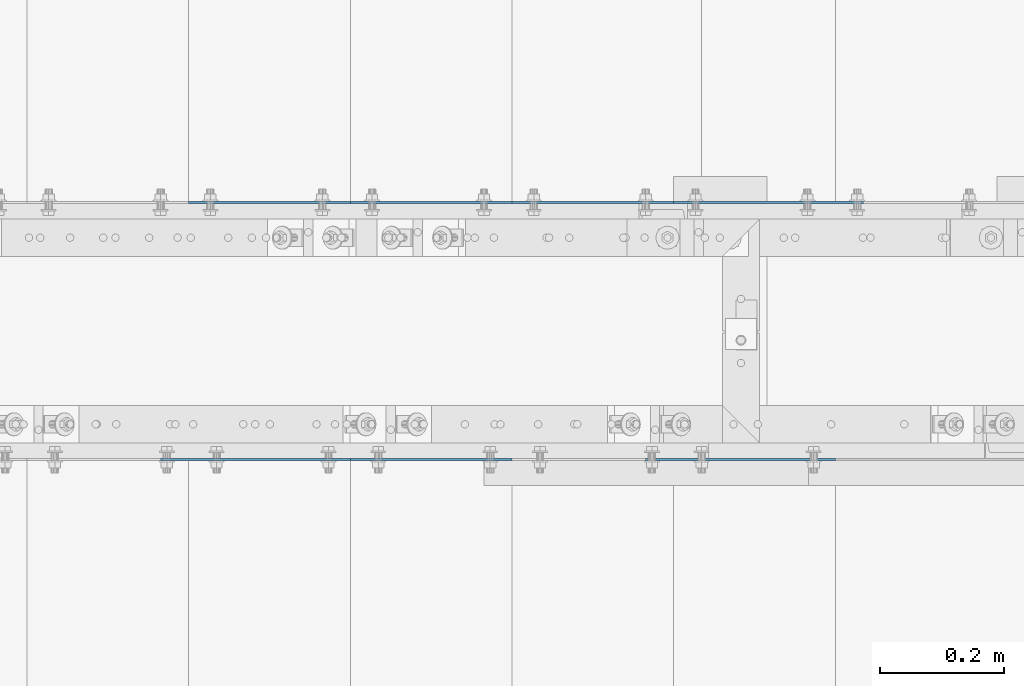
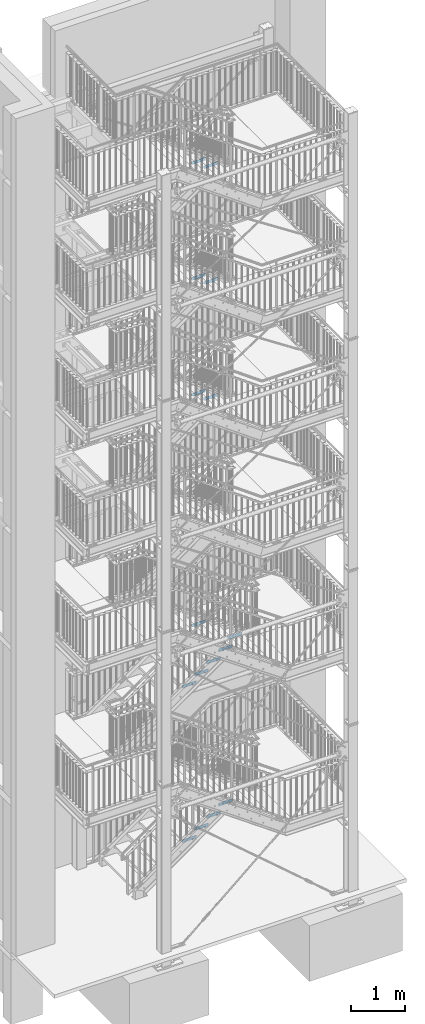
# One storey, part 177 of 831: 16 plates, 32 openings.
"""IFC2X3 building model written with IfcOpenShell, lengths in millimetres."""

from ifc_helpers import new_model, entity, si_unit, converted_unit, point, frame, frame_2d, origin, origin_with_axes, origin_2d_with_axis, place, context, project, spatial, polyline, circle_curve, line_curve, trimmed, segment, composite_curve, circle, outline, extrude, material, layer, layer_set, element, save


model = new_model("IFC2X3")

# Units and contexts
model_context = context("Model", 3, precision=1e-09, world=origin_with_axes())
ifc_project = project(units=[si_unit("LENGTHUNIT", "METRE", prefix="MILLI"), si_unit("AREAUNIT", "SQUARE_METRE"), si_unit("VOLUMEUNIT", "CUBIC_METRE"), converted_unit("PLANEANGLEUNIT", "DEGREE", entity("IfcPlaneAngleMeasure", 0.01745329), si_unit("PLANEANGLEUNIT", "RADIAN"), dimensions=[0, 0, 0, 0, 0, 0, 0])], contexts=[model_context])

# Site, building, storey
site_placement = place(None, origin_with_axes())
site = spatial("IfcSite", under=ifc_project, at=site_placement, Name="Site", CompositionType="ELEMENT")
building_placement = place(site_placement, origin_with_axes())
building = spatial("IfcBuilding", under=site, at=building_placement, Name="Struktur 1", CompositionType="ELEMENT")
storey_placement = place(building_placement, origin_with_axes())
storey = spatial("IfcBuildingStorey", under=building, at=storey_placement, Name="Default Storey", CompositionType="ELEMENT", Elevation=0.0)

# Plate, openings
ifc_material = material(Name="S235JR")
ifc_layer = layer(ifc_material, 3.0)
ifc_layer_set = layer_set([ifc_layer], Name="S235JR")
plate_1_placement = place(None, frame((6276.713402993, 6149.736971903, 1295.5263152), z_axis=(0.0, -1.0, 0.0), x_axis=(0.0, 0.0, -1.0)))
plate_1 = element("IfcPlate", 1, at=plate_1_placement, inside=storey, material=ifc_layer_set, Name="Grate_Step#31", ObjectType="Grate_Step#31", context=model_context, shape_type="SweptSolid", body=[
    extrude(outline(polyline([(0.0, 0.0), (70.0, 0.0), (70.0, 275.0), (40.0, 305.0), (0.0, 305.0), (0.0, 0.0)])), origin_with_axes(), (0.0, 0.0, 1.0), 3.0),
])
opening_1_placement = place(plate_1_placement, frame((55.0, 215.0, -0.5), z_axis=(0.0, 0.0, 1.0), x_axis=(0.0, 1.0, 0.0)))
element("IfcOpeningElement", 2, at=opening_1_placement, cuts=plate_1, ObjectType="Opening", context=model_context, shape_type="SweptSolid", body=[
    extrude(outline(composite_curve([segment(trimmed(line_curve((-9.5, -7.001), (1.0, 0.0), 19.0), [point((-9.5, -7.001))], [point((9.5, -7.001))], True, "CARTESIAN"), True, "CONTINUOUS"), segment(trimmed(circle_curve(frame_2d((9.5, 0.0), x_axis=(1.0, 0.0)), 7.001), [point((9.5, -7.001))], [point((9.5, 7.001))], True, "CARTESIAN"), True, "CONTINUOUS"), segment(trimmed(line_curve((9.5, 7.001), (-1.0, 0.0), 19.0), [point((9.5, 7.001))], [point((-9.5, 7.001))], True, "CARTESIAN"), True, "CONTINUOUS"), segment(trimmed(circle_curve(frame_2d((-9.5, 0.0), x_axis=(1.0, 0.0)), 7.001), [point((-9.5, 7.001))], [point((-9.5, -7.001))], True, "CARTESIAN"), True, "CONTINUOUS")], self_intersect=False)), origin(), (0.0, 0.0, 1.0), 4.0),
])
opening_2_placement = place(plate_1_placement, frame((55.0, 35.0, -0.5), z_axis=(0.0, 0.0, 1.0), x_axis=(0.0, 1.0, 0.0)))
element("IfcOpeningElement", 3, at=opening_2_placement, cuts=plate_1, ObjectType="Opening", context=model_context, shape_type="SweptSolid", body=[
    extrude(circle(Radius=7.001, at=origin_2d_with_axis()), origin(), (0.0, 0.0, 1.0), 4.0),
])

plate_2_placement = place(None, frame((6796.713402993, 6149.736971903, 1665.7368416), z_axis=(0.0, -1.0, 0.0), x_axis=(0.0, 0.0, -1.0)))
plate_2 = element("IfcPlate", 4, at=plate_2_placement, inside=storey, material=ifc_layer_set, Name="Grate_Step#45", ObjectType="Grate_Step#45", context=model_context, shape_type="SweptSolid", body=[
    extrude(outline(polyline([(0.0, 0.0), (70.0, 0.0), (70.0, 275.0), (40.0, 305.0), (0.0, 305.0), (0.0, 0.0)])), origin_with_axes(), (0.0, 0.0, 1.0), 3.0),
])
opening_3_placement = place(plate_2_placement, frame((55.0, 215.0, -0.5), z_axis=(0.0, 0.0, 1.0), x_axis=(0.0, 1.0, 0.0)))
element("IfcOpeningElement", 5, at=opening_3_placement, cuts=plate_2, ObjectType="Opening", context=model_context, shape_type="SweptSolid", body=[
    extrude(outline(composite_curve([segment(trimmed(line_curve((-9.5, -7.001), (1.0, 0.0), 19.0), [point((-9.5, -7.001))], [point((9.5, -7.001))], True, "CARTESIAN"), True, "CONTINUOUS"), segment(trimmed(circle_curve(frame_2d((9.5, 0.0), x_axis=(1.0, 0.0)), 7.001), [point((9.5, -7.001))], [point((9.5, 7.001))], True, "CARTESIAN"), True, "CONTINUOUS"), segment(trimmed(line_curve((9.5, 7.001), (-1.0, 0.0), 19.0), [point((9.5, 7.001))], [point((-9.5, 7.001))], True, "CARTESIAN"), True, "CONTINUOUS"), segment(trimmed(circle_curve(frame_2d((-9.5, 0.0), x_axis=(1.0, 0.0)), 7.001), [point((-9.5, 7.001))], [point((-9.5, -7.001))], True, "CARTESIAN"), True, "CONTINUOUS")], self_intersect=False)), origin(), (0.0, 0.0, 1.0), 4.0),
])
opening_4_placement = place(plate_2_placement, frame((55.0, 35.0, -0.5), z_axis=(0.0, 0.0, 1.0), x_axis=(0.0, 1.0, 0.0)))
element("IfcOpeningElement", 6, at=opening_4_placement, cuts=plate_2, ObjectType="Opening", context=model_context, shape_type="SweptSolid", body=[
    extrude(circle(Radius=7.001, at=origin_2d_with_axis()), origin(), (0.0, 0.0, 1.0), 4.0),
])

plate_3_placement = place(None, frame((6536.713402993, 6149.736971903, 4983.7368419), z_axis=(0.0, -1.0, 0.0), x_axis=(0.0, 0.0, -1.0)))
plate_3 = element("IfcPlate", 7, at=plate_3_placement, inside=storey, material=ifc_layer_set, Name="Grate_Step#38", ObjectType="Grate_Step#38", context=model_context, shape_type="SweptSolid", body=[
    extrude(outline(polyline([(0.0, 0.0), (70.0, 0.0), (70.0, 275.0), (40.0, 305.0), (0.0, 305.0), (0.0, 0.0)])), origin_with_axes(), (0.0, 0.0, 1.0), 3.0),
])
opening_5_placement = place(plate_3_placement, frame((55.0, 35.0, -0.5), z_axis=(0.0, 0.0, 1.0), x_axis=(0.0, 1.0, 0.0)))
element("IfcOpeningElement", 8, at=opening_5_placement, cuts=plate_3, ObjectType="Opening", context=model_context, shape_type="SweptSolid", body=[
    extrude(circle(Radius=7.001, at=origin_2d_with_axis()), origin(), (0.0, 0.0, 1.0), 4.0),
])
opening_6_placement = place(plate_3_placement, frame((55.0, 215.0, -0.5), z_axis=(0.0, 0.0, 1.0), x_axis=(0.0, 1.0, 0.0)))
element("IfcOpeningElement", 9, at=opening_6_placement, cuts=plate_3, ObjectType="Opening", context=model_context, shape_type="SweptSolid", body=[
    extrude(outline(composite_curve([segment(trimmed(line_curve((-9.5, -7.001), (1.0, 0.0), 19.0), [point((-9.5, -7.001))], [point((9.5, -7.001))], True, "CARTESIAN"), True, "CONTINUOUS"), segment(trimmed(circle_curve(frame_2d((9.5, 0.0), x_axis=(1.0, 0.0)), 7.001), [point((9.5, -7.001))], [point((9.5, 7.001))], True, "CARTESIAN"), True, "CONTINUOUS"), segment(trimmed(line_curve((9.5, 7.001), (-1.0, 0.0), 19.0), [point((9.5, 7.001))], [point((-9.5, 7.001))], True, "CARTESIAN"), True, "CONTINUOUS"), segment(trimmed(circle_curve(frame_2d((-9.5, 0.0), x_axis=(1.0, 0.0)), 7.001), [point((-9.5, 7.001))], [point((-9.5, -7.001))], True, "CARTESIAN"), True, "CONTINUOUS")], self_intersect=False)), origin(), (0.0, 0.0, 1.0), 4.0),
])

plate_4_placement = place(None, frame((7056.713402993, 6149.736971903, 5349.3157893), z_axis=(0.0, -1.0, 0.0), x_axis=(0.0, 0.0, -1.0)))
plate_4 = element("IfcPlate", 10, at=plate_4_placement, inside=storey, material=ifc_layer_set, Name="Grate_Step#52", ObjectType="Grate_Step#52", context=model_context, shape_type="SweptSolid", body=[
    extrude(outline(polyline([(0.0, 0.0), (70.0, 0.0), (70.0, 275.0), (40.0, 305.0), (0.0, 305.0), (0.0, 0.0)])), origin_with_axes(), (0.0, 0.0, 1.0), 3.0),
])
opening_7_placement = place(plate_4_placement, frame((55.0, 215.0, -0.5), z_axis=(0.0, 0.0, 1.0), x_axis=(0.0, 1.0, 0.0)))
element("IfcOpeningElement", 11, at=opening_7_placement, cuts=plate_4, ObjectType="Opening", context=model_context, shape_type="SweptSolid", body=[
    extrude(outline(composite_curve([segment(trimmed(line_curve((-9.5, -7.001), (1.0, 0.0), 19.0), [point((-9.5, -7.001))], [point((9.5, -7.001))], True, "CARTESIAN"), True, "CONTINUOUS"), segment(trimmed(circle_curve(frame_2d((9.5, 0.0), x_axis=(1.0, 0.0)), 7.001), [point((9.5, -7.001))], [point((9.5, 7.001))], True, "CARTESIAN"), True, "CONTINUOUS"), segment(trimmed(line_curve((9.5, 7.001), (-1.0, 0.0), 19.0), [point((9.5, 7.001))], [point((-9.5, 7.001))], True, "CARTESIAN"), True, "CONTINUOUS"), segment(trimmed(circle_curve(frame_2d((-9.5, 0.0), x_axis=(1.0, 0.0)), 7.001), [point((-9.5, 7.001))], [point((-9.5, -7.001))], True, "CARTESIAN"), True, "CONTINUOUS")], self_intersect=False)), origin(), (0.0, 0.0, 1.0), 4.0),
])
opening_8_placement = place(plate_4_placement, frame((55.0, 35.0, -0.5), z_axis=(0.0, 0.0, 1.0), x_axis=(0.0, 1.0, 0.0)))
element("IfcOpeningElement", 12, at=opening_8_placement, cuts=plate_4, ObjectType="Opening", context=model_context, shape_type="SweptSolid", body=[
    extrude(circle(Radius=7.001, at=origin_2d_with_axis()), origin(), (0.0, 0.0, 1.0), 4.0),
])

plate_5_placement = place(None, frame((6276.713402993, 6149.736971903, 4800.9473682), z_axis=(0.0, -1.0, 0.0), x_axis=(0.0, 0.0, -1.0)))
plate_5 = element("IfcPlate", 13, at=plate_5_placement, inside=storey, material=ifc_layer_set, Name="Grate_Step#31", ObjectType="Grate_Step#31", context=model_context, shape_type="SweptSolid", body=[
    extrude(outline(polyline([(0.0, 0.0), (70.0, 0.0), (70.0, 275.0), (40.0, 305.0), (0.0, 305.0), (0.0, 0.0)])), origin_with_axes(), (0.0, 0.0, 1.0), 3.0),
])
opening_9_placement = place(plate_5_placement, frame((55.0, 35.0, -0.5), z_axis=(0.0, 0.0, 1.0), x_axis=(0.0, 1.0, 0.0)))
element("IfcOpeningElement", 14, at=opening_9_placement, cuts=plate_5, ObjectType="Opening", context=model_context, shape_type="SweptSolid", body=[
    extrude(circle(Radius=7.001, at=origin_2d_with_axis()), origin(), (0.0, 0.0, 1.0), 4.0),
])
opening_10_placement = place(plate_5_placement, frame((55.0, 215.0, -0.5), z_axis=(0.0, 0.0, 1.0), x_axis=(0.0, 1.0, 0.0)))
element("IfcOpeningElement", 15, at=opening_10_placement, cuts=plate_5, ObjectType="Opening", context=model_context, shape_type="SweptSolid", body=[
    extrude(outline(composite_curve([segment(trimmed(line_curve((-9.5, -7.001), (1.0, 0.0), 19.0), [point((-9.5, -7.001))], [point((9.5, -7.001))], True, "CARTESIAN"), True, "CONTINUOUS"), segment(trimmed(circle_curve(frame_2d((9.5, 0.0), x_axis=(1.0, 0.0)), 7.001), [point((9.5, -7.001))], [point((9.5, 7.001))], True, "CARTESIAN"), True, "CONTINUOUS"), segment(trimmed(line_curve((9.5, 7.001), (-1.0, 0.0), 19.0), [point((9.5, 7.001))], [point((-9.5, 7.001))], True, "CARTESIAN"), True, "CONTINUOUS"), segment(trimmed(circle_curve(frame_2d((-9.5, 0.0), x_axis=(1.0, 0.0)), 7.001), [point((-9.5, 7.001))], [point((-9.5, -7.001))], True, "CARTESIAN"), True, "CONTINUOUS")], self_intersect=False)), origin(), (0.0, 0.0, 1.0), 4.0),
])

plate_6_placement = place(None, frame((6796.713402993, 6149.736971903, 5166.5263156), z_axis=(0.0, -1.0, 0.0), x_axis=(0.0, 0.0, -1.0)))
plate_6 = element("IfcPlate", 16, at=plate_6_placement, inside=storey, material=ifc_layer_set, Name="Grate_Step#45", ObjectType="Grate_Step#45", context=model_context, shape_type="SweptSolid", body=[
    extrude(outline(polyline([(0.0, 0.0), (70.0, 0.0), (70.0, 275.0), (40.0, 305.0), (0.0, 305.0), (0.0, 0.0)])), origin_with_axes(), (0.0, 0.0, 1.0), 3.0),
])
opening_11_placement = place(plate_6_placement, frame((55.0, 35.0, -0.5), z_axis=(0.0, 0.0, 1.0), x_axis=(0.0, 1.0, 0.0)))
element("IfcOpeningElement", 17, at=opening_11_placement, cuts=plate_6, ObjectType="Opening", context=model_context, shape_type="SweptSolid", body=[
    extrude(circle(Radius=7.001, at=origin_2d_with_axis()), origin(), (0.0, 0.0, 1.0), 4.0),
])
opening_12_placement = place(plate_6_placement, frame((55.0, 215.0, -0.5), z_axis=(0.0, 0.0, 1.0), x_axis=(0.0, 1.0, 0.0)))
element("IfcOpeningElement", 18, at=opening_12_placement, cuts=plate_6, ObjectType="Opening", context=model_context, shape_type="SweptSolid", body=[
    extrude(outline(composite_curve([segment(trimmed(line_curve((-9.5, -7.001), (1.0, 0.0), 19.0), [point((-9.5, -7.001))], [point((9.5, -7.001))], True, "CARTESIAN"), True, "CONTINUOUS"), segment(trimmed(circle_curve(frame_2d((9.5, 0.0), x_axis=(1.0, 0.0)), 7.001), [point((9.5, -7.001))], [point((9.5, 7.001))], True, "CARTESIAN"), True, "CONTINUOUS"), segment(trimmed(line_curve((9.5, 7.001), (-1.0, 0.0), 19.0), [point((9.5, 7.001))], [point((-9.5, 7.001))], True, "CARTESIAN"), True, "CONTINUOUS"), segment(trimmed(circle_curve(frame_2d((-9.5, 0.0), x_axis=(1.0, 0.0)), 7.001), [point((-9.5, 7.001))], [point((-9.5, -7.001))], True, "CARTESIAN"), True, "CONTINUOUS")], self_intersect=False)), origin(), (0.0, 0.0, 1.0), 4.0),
])

plate_7_placement = place(None, frame((6536.713402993, 6149.736971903, 1480.6315784), z_axis=(0.0, -1.0, 0.0), x_axis=(0.0, 0.0, -1.0)))
plate_7 = element("IfcPlate", 19, at=plate_7_placement, inside=storey, material=ifc_layer_set, Name="Grate_Step#38", ObjectType="Grate_Step#38", context=model_context, shape_type="SweptSolid", body=[
    extrude(outline(polyline([(0.0, 0.0), (70.0, 0.0), (70.0, 275.0), (40.0, 305.0), (0.0, 305.0), (0.0, 0.0)])), origin_with_axes(), (0.0, 0.0, 1.0), 3.0),
])
opening_13_placement = place(plate_7_placement, frame((55.0, 215.0, -0.5), z_axis=(0.0, 0.0, 1.0), x_axis=(0.0, 1.0, 0.0)))
element("IfcOpeningElement", 20, at=opening_13_placement, cuts=plate_7, ObjectType="Opening", context=model_context, shape_type="SweptSolid", body=[
    extrude(outline(composite_curve([segment(trimmed(line_curve((-9.5, -7.001), (1.0, 0.0), 19.0), [point((-9.5, -7.001))], [point((9.5, -7.001))], True, "CARTESIAN"), True, "CONTINUOUS"), segment(trimmed(circle_curve(frame_2d((9.5, 0.0), x_axis=(1.0, 0.0)), 7.001), [point((9.5, -7.001))], [point((9.5, 7.001))], True, "CARTESIAN"), True, "CONTINUOUS"), segment(trimmed(line_curve((9.5, 7.001), (-1.0, 0.0), 19.0), [point((9.5, 7.001))], [point((-9.5, 7.001))], True, "CARTESIAN"), True, "CONTINUOUS"), segment(trimmed(circle_curve(frame_2d((-9.5, 0.0), x_axis=(1.0, 0.0)), 7.001), [point((-9.5, 7.001))], [point((-9.5, -7.001))], True, "CARTESIAN"), True, "CONTINUOUS")], self_intersect=False)), origin(), (0.0, 0.0, 1.0), 4.0),
])
opening_14_placement = place(plate_7_placement, frame((55.0, 35.0, -0.5), z_axis=(0.0, 0.0, 1.0), x_axis=(0.0, 1.0, 0.0)))
element("IfcOpeningElement", 21, at=opening_14_placement, cuts=plate_7, ObjectType="Opening", context=model_context, shape_type="SweptSolid", body=[
    extrude(circle(Radius=7.001, at=origin_2d_with_axis()), origin(), (0.0, 0.0, 1.0), 4.0),
])

plate_8_placement = place(None, frame((7056.713402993, 6149.736971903, 1850.8421048), z_axis=(0.0, -1.0, 0.0), x_axis=(0.0, 0.0, -1.0)))
plate_8 = element("IfcPlate", 22, at=plate_8_placement, inside=storey, material=ifc_layer_set, Name="Grate_Step#52", ObjectType="Grate_Step#52", context=model_context, shape_type="SweptSolid", body=[
    extrude(outline(polyline([(0.0, 0.0), (70.0, 0.0), (70.0, 275.0), (40.0, 305.0), (0.0, 305.0), (0.0, 0.0)])), origin_with_axes(), (0.0, 0.0, 1.0), 3.0),
])
opening_15_placement = place(plate_8_placement, frame((55.0, 35.0, -0.5), z_axis=(0.0, 0.0, 1.0), x_axis=(0.0, 1.0, 0.0)))
element("IfcOpeningElement", 23, at=opening_15_placement, cuts=plate_8, ObjectType="Opening", context=model_context, shape_type="SweptSolid", body=[
    extrude(circle(Radius=7.001, at=origin_2d_with_axis()), origin(), (0.0, 0.0, 1.0), 4.0),
])
opening_16_placement = place(plate_8_placement, frame((55.0, 215.0, -0.5), z_axis=(0.0, 0.0, 1.0), x_axis=(0.0, 1.0, 0.0)))
element("IfcOpeningElement", 24, at=opening_16_placement, cuts=plate_8, ObjectType="Opening", context=model_context, shape_type="SweptSolid", body=[
    extrude(outline(composite_curve([segment(trimmed(line_curve((-9.5, -7.001), (1.0, 0.0), 19.0), [point((-9.5, -7.001))], [point((9.5, -7.001))], True, "CARTESIAN"), True, "CONTINUOUS"), segment(trimmed(circle_curve(frame_2d((9.5, 0.0), x_axis=(1.0, 0.0)), 7.001), [point((9.5, -7.001))], [point((9.5, 7.001))], True, "CARTESIAN"), True, "CONTINUOUS"), segment(trimmed(line_curve((9.5, 7.001), (-1.0, 0.0), 19.0), [point((9.5, 7.001))], [point((-9.5, 7.001))], True, "CARTESIAN"), True, "CONTINUOUS"), segment(trimmed(circle_curve(frame_2d((-9.5, 0.0), x_axis=(1.0, 0.0)), 7.001), [point((-9.5, 7.001))], [point((-9.5, -7.001))], True, "CARTESIAN"), True, "CONTINUOUS")], self_intersect=False)), origin(), (0.0, 0.0, 1.0), 4.0),
])

plate_9_placement = place(None, frame((6796.713402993, 5733.736971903, 11493.1428574), z_axis=(0.0, 1.0, 0.0), x_axis=(0.0, 0.0, -1.0)))
plate_9 = element("IfcPlate", 25, at=plate_9_placement, inside=storey, material=ifc_layer_set, Name="Grate_Step#3", ObjectType="Grate_Step#3", context=model_context, shape_type="SweptSolid", body=[
    extrude(outline(polyline([(0.0, 0.0), (70.0, 0.0), (70.0, 275.0), (40.0, 305.0), (0.0, 305.0), (0.0, 0.0)])), origin_with_axes(), (0.0, 0.0, 1.0), 3.0),
])
opening_17_placement = place(plate_9_placement, frame((55.0, 215.0, -0.5), z_axis=(0.0, 0.0, 1.0), x_axis=(0.0, 1.0, 0.0)))
element("IfcOpeningElement", 26, at=opening_17_placement, cuts=plate_9, ObjectType="Opening", context=model_context, shape_type="SweptSolid", body=[
    extrude(outline(composite_curve([segment(trimmed(line_curve((-9.5, -7.001), (1.0, 0.0), 19.0), [point((-9.5, -7.001))], [point((9.5, -7.001))], True, "CARTESIAN"), True, "CONTINUOUS"), segment(trimmed(circle_curve(frame_2d((9.5, 0.0), x_axis=(1.0, 0.0)), 7.001), [point((9.5, -7.001))], [point((9.5, 7.001))], True, "CARTESIAN"), True, "CONTINUOUS"), segment(trimmed(line_curve((9.5, 7.001), (-1.0, 0.0), 19.0), [point((9.5, 7.001))], [point((-9.5, 7.001))], True, "CARTESIAN"), True, "CONTINUOUS"), segment(trimmed(circle_curve(frame_2d((-9.5, 0.0), x_axis=(1.0, 0.0)), 7.001), [point((-9.5, 7.001))], [point((-9.5, -7.001))], True, "CARTESIAN"), True, "CONTINUOUS")], self_intersect=False)), origin(), (0.0, 0.0, 1.0), 4.0),
])
opening_18_placement = place(plate_9_placement, frame((55.0, 35.0, -0.5), z_axis=(0.0, 0.0, 1.0), x_axis=(0.0, 1.0, 0.0)))
element("IfcOpeningElement", 27, at=opening_18_placement, cuts=plate_9, ObjectType="Opening", context=model_context, shape_type="SweptSolid", body=[
    extrude(circle(Radius=7.001, at=origin_2d_with_axis()), origin(), (0.0, 0.0, 1.0), 4.0),
])

plate_10_placement = place(None, frame((6536.713402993, 5733.736971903, 11680.7857145), z_axis=(0.0, 1.0, 0.0), x_axis=(0.0, 0.0, -1.0)))
plate_10 = element("IfcPlate", 28, at=plate_10_placement, inside=storey, material=ifc_layer_set, Name="Grate_Step#10", ObjectType="Grate_Step#10", context=model_context, shape_type="SweptSolid", body=[
    extrude(outline(polyline([(0.0, 0.0), (70.0, 0.0), (70.0, 275.0), (40.0, 305.0), (0.0, 305.0), (0.0, 0.0)])), origin_with_axes(), (0.0, 0.0, 1.0), 3.0),
])
opening_19_placement = place(plate_10_placement, frame((55.0, 215.0, -0.5), z_axis=(0.0, 0.0, 1.0), x_axis=(0.0, 1.0, 0.0)))
element("IfcOpeningElement", 29, at=opening_19_placement, cuts=plate_10, ObjectType="Opening", context=model_context, shape_type="SweptSolid", body=[
    extrude(outline(composite_curve([segment(trimmed(line_curve((-9.5, -7.001), (1.0, 0.0), 19.0), [point((-9.5, -7.001))], [point((9.5, -7.001))], True, "CARTESIAN"), True, "CONTINUOUS"), segment(trimmed(circle_curve(frame_2d((9.5, 0.0), x_axis=(1.0, 0.0)), 7.001), [point((9.5, -7.001))], [point((9.5, 7.001))], True, "CARTESIAN"), True, "CONTINUOUS"), segment(trimmed(line_curve((9.5, 7.001), (-1.0, 0.0), 19.0), [point((9.5, 7.001))], [point((-9.5, 7.001))], True, "CARTESIAN"), True, "CONTINUOUS"), segment(trimmed(circle_curve(frame_2d((-9.5, 0.0), x_axis=(1.0, 0.0)), 7.001), [point((-9.5, 7.001))], [point((-9.5, -7.001))], True, "CARTESIAN"), True, "CONTINUOUS")], self_intersect=False)), origin(), (0.0, 0.0, 1.0), 4.0),
])
opening_20_placement = place(plate_10_placement, frame((55.0, 35.0, -0.5), z_axis=(0.0, 0.0, 1.0), x_axis=(0.0, 1.0, 0.0)))
element("IfcOpeningElement", 30, at=opening_20_placement, cuts=plate_10, ObjectType="Opening", context=model_context, shape_type="SweptSolid", body=[
    extrude(circle(Radius=7.001, at=origin_2d_with_axis()), origin(), (0.0, 0.0, 1.0), 4.0),
])

plate_11_placement = place(None, frame((6796.713402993, 5733.736971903, 14124.7142858), z_axis=(0.0, 1.0, 0.0), x_axis=(0.0, 0.0, -1.0)))
plate_11 = element("IfcPlate", 31, at=plate_11_placement, inside=storey, material=ifc_layer_set, Name="Grate_Step#3", ObjectType="Grate_Step#3", context=model_context, shape_type="SweptSolid", body=[
    extrude(outline(polyline([(0.0, 0.0), (70.0, 0.0), (70.0, 275.0), (40.0, 305.0), (0.0, 305.0), (0.0, 0.0)])), origin_with_axes(), (0.0, 0.0, 1.0), 3.0),
])
opening_21_placement = place(plate_11_placement, frame((55.0, 215.0, -0.5), z_axis=(0.0, 0.0, 1.0), x_axis=(0.0, 1.0, 0.0)))
element("IfcOpeningElement", 32, at=opening_21_placement, cuts=plate_11, ObjectType="Opening", context=model_context, shape_type="SweptSolid", body=[
    extrude(outline(composite_curve([segment(trimmed(line_curve((-9.5, -7.001), (1.0, 0.0), 19.0), [point((-9.5, -7.001))], [point((9.5, -7.001))], True, "CARTESIAN"), True, "CONTINUOUS"), segment(trimmed(circle_curve(frame_2d((9.5, 0.0), x_axis=(1.0, 0.0)), 7.001), [point((9.5, -7.001))], [point((9.5, 7.001))], True, "CARTESIAN"), True, "CONTINUOUS"), segment(trimmed(line_curve((9.5, 7.001), (-1.0, 0.0), 19.0), [point((9.5, 7.001))], [point((-9.5, 7.001))], True, "CARTESIAN"), True, "CONTINUOUS"), segment(trimmed(circle_curve(frame_2d((-9.5, 0.0), x_axis=(1.0, 0.0)), 7.001), [point((-9.5, 7.001))], [point((-9.5, -7.001))], True, "CARTESIAN"), True, "CONTINUOUS")], self_intersect=False)), origin(), (0.0, 0.0, 1.0), 4.0),
])
opening_22_placement = place(plate_11_placement, frame((55.0, 35.0, -0.5), z_axis=(0.0, 0.0, 1.0), x_axis=(0.0, 1.0, 0.0)))
element("IfcOpeningElement", 33, at=opening_22_placement, cuts=plate_11, ObjectType="Opening", context=model_context, shape_type="SweptSolid", body=[
    extrude(circle(Radius=7.001, at=origin_2d_with_axis()), origin(), (0.0, 0.0, 1.0), 4.0),
])

plate_12_placement = place(None, frame((6536.713402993, 5733.736971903, 14312.9285715), z_axis=(0.0, 1.0, 0.0), x_axis=(0.0, 0.0, -1.0)))
plate_12 = element("IfcPlate", 34, at=plate_12_placement, inside=storey, material=ifc_layer_set, Name="Grate_Step#10", ObjectType="Grate_Step#10", context=model_context, shape_type="SweptSolid", body=[
    extrude(outline(polyline([(0.0, 0.0), (70.0, 0.0), (70.0, 275.0), (40.0, 305.0), (0.0, 305.0), (0.0, 0.0)])), origin_with_axes(), (0.0, 0.0, 1.0), 3.0),
])
opening_23_placement = place(plate_12_placement, frame((55.0, 215.0, -0.5), z_axis=(0.0, 0.0, 1.0), x_axis=(0.0, 1.0, 0.0)))
element("IfcOpeningElement", 35, at=opening_23_placement, cuts=plate_12, ObjectType="Opening", context=model_context, shape_type="SweptSolid", body=[
    extrude(outline(composite_curve([segment(trimmed(line_curve((-9.5, -7.001), (1.0, 0.0), 19.0), [point((-9.5, -7.001))], [point((9.5, -7.001))], True, "CARTESIAN"), True, "CONTINUOUS"), segment(trimmed(circle_curve(frame_2d((9.5, 0.0), x_axis=(1.0, 0.0)), 7.001), [point((9.5, -7.001))], [point((9.5, 7.001))], True, "CARTESIAN"), True, "CONTINUOUS"), segment(trimmed(line_curve((9.5, 7.001), (-1.0, 0.0), 19.0), [point((9.5, 7.001))], [point((-9.5, 7.001))], True, "CARTESIAN"), True, "CONTINUOUS"), segment(trimmed(circle_curve(frame_2d((-9.5, 0.0), x_axis=(1.0, 0.0)), 7.001), [point((-9.5, 7.001))], [point((-9.5, -7.001))], True, "CARTESIAN"), True, "CONTINUOUS")], self_intersect=False)), origin(), (0.0, 0.0, 1.0), 4.0),
])
opening_24_placement = place(plate_12_placement, frame((55.0, 35.0, -0.5), z_axis=(0.0, 0.0, 1.0), x_axis=(0.0, 1.0, 0.0)))
element("IfcOpeningElement", 36, at=opening_24_placement, cuts=plate_12, ObjectType="Opening", context=model_context, shape_type="SweptSolid", body=[
    extrude(circle(Radius=7.001, at=origin_2d_with_axis()), origin(), (0.0, 0.0, 1.0), 4.0),
])

plate_13_placement = place(None, frame((6796.713402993, 5733.736971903, 16751.1428574), z_axis=(0.0, 1.0, 0.0), x_axis=(0.0, 0.0, -1.0)))
plate_13 = element("IfcPlate", 37, at=plate_13_placement, inside=storey, material=ifc_layer_set, Name="Grate_Step#3", ObjectType="Grate_Step#3", context=model_context, shape_type="SweptSolid", body=[
    extrude(outline(polyline([(0.0, 0.0), (70.0, 0.0), (70.0, 275.0), (40.0, 305.0), (0.0, 305.0), (0.0, 0.0)])), origin_with_axes(), (0.0, 0.0, 1.0), 3.0),
])
opening_25_placement = place(plate_13_placement, frame((55.0, 35.0, -0.5), z_axis=(0.0, 0.0, 1.0), x_axis=(0.0, 1.0, 0.0)))
element("IfcOpeningElement", 38, at=opening_25_placement, cuts=plate_13, ObjectType="Opening", context=model_context, shape_type="SweptSolid", body=[
    extrude(circle(Radius=7.001, at=origin_2d_with_axis()), origin(), (0.0, 0.0, 1.0), 4.0),
])
opening_26_placement = place(plate_13_placement, frame((55.0, 215.0, -0.5), z_axis=(0.0, 0.0, 1.0), x_axis=(0.0, 1.0, 0.0)))
element("IfcOpeningElement", 39, at=opening_26_placement, cuts=plate_13, ObjectType="Opening", context=model_context, shape_type="SweptSolid", body=[
    extrude(outline(composite_curve([segment(trimmed(line_curve((-9.5, -7.001), (1.0, 0.0), 19.0), [point((-9.5, -7.001))], [point((9.5, -7.001))], True, "CARTESIAN"), True, "CONTINUOUS"), segment(trimmed(circle_curve(frame_2d((9.5, 0.0), x_axis=(1.0, 0.0)), 7.001), [point((9.5, -7.001))], [point((9.5, 7.001))], True, "CARTESIAN"), True, "CONTINUOUS"), segment(trimmed(line_curve((9.5, 7.001), (-1.0, 0.0), 19.0), [point((9.5, 7.001))], [point((-9.5, 7.001))], True, "CARTESIAN"), True, "CONTINUOUS"), segment(trimmed(circle_curve(frame_2d((-9.5, 0.0), x_axis=(1.0, 0.0)), 7.001), [point((-9.5, 7.001))], [point((-9.5, -7.001))], True, "CARTESIAN"), True, "CONTINUOUS")], self_intersect=False)), origin(), (0.0, 0.0, 1.0), 4.0),
])

plate_14_placement = place(None, frame((6536.713402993, 5733.736971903, 16938.2857145), z_axis=(0.0, 1.0, 0.0), x_axis=(0.0, 0.0, -1.0)))
plate_14 = element("IfcPlate", 40, at=plate_14_placement, inside=storey, material=ifc_layer_set, Name="Grate_Step#10", ObjectType="Grate_Step#10", context=model_context, shape_type="SweptSolid", body=[
    extrude(outline(polyline([(0.0, 0.0), (70.0, 0.0), (70.0, 275.0), (40.0, 305.0), (0.0, 305.0), (0.0, 0.0)])), origin_with_axes(), (0.0, 0.0, 1.0), 3.0),
])
opening_27_placement = place(plate_14_placement, frame((55.0, 35.0, -0.5), z_axis=(0.0, 0.0, 1.0), x_axis=(0.0, 1.0, 0.0)))
element("IfcOpeningElement", 41, at=opening_27_placement, cuts=plate_14, ObjectType="Opening", context=model_context, shape_type="SweptSolid", body=[
    extrude(circle(Radius=7.001, at=origin_2d_with_axis()), origin(), (0.0, 0.0, 1.0), 4.0),
])
opening_28_placement = place(plate_14_placement, frame((55.0, 215.0, -0.5), z_axis=(0.0, 0.0, 1.0), x_axis=(0.0, 1.0, 0.0)))
element("IfcOpeningElement", 42, at=opening_28_placement, cuts=plate_14, ObjectType="Opening", context=model_context, shape_type="SweptSolid", body=[
    extrude(outline(composite_curve([segment(trimmed(line_curve((-9.5, -7.001), (1.0, 0.0), 19.0), [point((-9.5, -7.001))], [point((9.5, -7.001))], True, "CARTESIAN"), True, "CONTINUOUS"), segment(trimmed(circle_curve(frame_2d((9.5, 0.0), x_axis=(1.0, 0.0)), 7.001), [point((9.5, -7.001))], [point((9.5, 7.001))], True, "CARTESIAN"), True, "CONTINUOUS"), segment(trimmed(line_curve((9.5, 7.001), (-1.0, 0.0), 19.0), [point((9.5, 7.001))], [point((-9.5, 7.001))], True, "CARTESIAN"), True, "CONTINUOUS"), segment(trimmed(circle_curve(frame_2d((-9.5, 0.0), x_axis=(1.0, 0.0)), 7.001), [point((-9.5, 7.001))], [point((-9.5, -7.001))], True, "CARTESIAN"), True, "CONTINUOUS")], self_intersect=False)), origin(), (0.0, 0.0, 1.0), 4.0),
])

plate_15_placement = place(None, frame((6536.713402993, 5733.736971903, 6446.0526315), z_axis=(0.0, 1.0, 0.0), x_axis=(0.0, 0.0, -1.0)))
plate_15 = element("IfcPlate", 43, at=plate_15_placement, inside=storey, material=ifc_layer_set, Name="Grate_Step#24", ObjectType="Grate_Step#24", context=model_context, shape_type="SweptSolid", body=[
    extrude(outline(polyline([(0.0, 0.0), (70.0, 0.0), (70.0, 275.0), (40.0, 305.0), (0.0, 305.0), (0.0, 0.0)])), origin_with_axes(), (0.0, 0.0, 1.0), 3.0),
])
opening_29_placement = place(plate_15_placement, frame((55.0, 35.0, -0.5), z_axis=(0.0, 0.0, 1.0), x_axis=(0.0, 1.0, 0.0)))
element("IfcOpeningElement", 44, at=opening_29_placement, cuts=plate_15, ObjectType="Opening", context=model_context, shape_type="SweptSolid", body=[
    extrude(circle(Radius=7.001, at=origin_2d_with_axis()), origin(), (0.0, 0.0, 1.0), 4.0),
])
opening_30_placement = place(plate_15_placement, frame((55.0, 215.0, -0.5), z_axis=(0.0, 0.0, 1.0), x_axis=(0.0, 1.0, 0.0)))
element("IfcOpeningElement", 45, at=opening_30_placement, cuts=plate_15, ObjectType="Opening", context=model_context, shape_type="SweptSolid", body=[
    extrude(outline(composite_curve([segment(trimmed(line_curve((-9.5, -7.001), (1.0, 0.0), 19.0), [point((-9.5, -7.001))], [point((9.5, -7.001))], True, "CARTESIAN"), True, "CONTINUOUS"), segment(trimmed(circle_curve(frame_2d((9.5, 0.0), x_axis=(1.0, 0.0)), 7.001), [point((9.5, -7.001))], [point((9.5, 7.001))], True, "CARTESIAN"), True, "CONTINUOUS"), segment(trimmed(line_curve((9.5, 7.001), (-1.0, 0.0), 19.0), [point((9.5, 7.001))], [point((-9.5, 7.001))], True, "CARTESIAN"), True, "CONTINUOUS"), segment(trimmed(circle_curve(frame_2d((-9.5, 0.0), x_axis=(1.0, 0.0)), 7.001), [point((-9.5, 7.001))], [point((-9.5, -7.001))], True, "CARTESIAN"), True, "CONTINUOUS")], self_intersect=False)), origin(), (0.0, 0.0, 1.0), 4.0),
])

plate_16_placement = place(None, frame((7316.713402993, 5733.736971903, 5897.6842104), z_axis=(0.0, 1.0, 0.0), x_axis=(0.0, 0.0, -1.0)))
plate_16 = element("IfcPlate", 46, at=plate_16_placement, inside=storey, material=ifc_layer_set, Name="Grate_Step#3", ObjectType="Grate_Step#3", context=model_context, shape_type="SweptSolid", body=[
    extrude(outline(polyline([(0.0, 0.0), (70.0, 0.0), (70.0, 275.0), (40.0, 305.0), (0.0, 305.0), (0.0, 0.0)])), origin_with_axes(), (0.0, 0.0, 1.0), 3.0),
])
opening_31_placement = place(plate_16_placement, frame((55.0, 35.0, -0.5), z_axis=(0.0, 0.0, 1.0), x_axis=(0.0, 1.0, 0.0)))
element("IfcOpeningElement", 47, at=opening_31_placement, cuts=plate_16, ObjectType="Opening", context=model_context, shape_type="SweptSolid", body=[
    extrude(circle(Radius=7.001, at=origin_2d_with_axis()), origin(), (0.0, 0.0, 1.0), 4.0),
])
opening_32_placement = place(plate_16_placement, frame((55.0, 215.0, -0.5), z_axis=(0.0, 0.0, 1.0), x_axis=(0.0, 1.0, 0.0)))
element("IfcOpeningElement", 48, at=opening_32_placement, cuts=plate_16, ObjectType="Opening", context=model_context, shape_type="SweptSolid", body=[
    extrude(outline(composite_curve([segment(trimmed(line_curve((-9.5, -7.001), (1.0, 0.0), 19.0), [point((-9.5, -7.001))], [point((9.5, -7.001))], True, "CARTESIAN"), True, "CONTINUOUS"), segment(trimmed(circle_curve(frame_2d((9.5, 0.0), x_axis=(1.0, 0.0)), 7.001), [point((9.5, -7.001))], [point((9.5, 7.001))], True, "CARTESIAN"), True, "CONTINUOUS"), segment(trimmed(line_curve((9.5, 7.001), (-1.0, 0.0), 19.0), [point((9.5, 7.001))], [point((-9.5, 7.001))], True, "CARTESIAN"), True, "CONTINUOUS"), segment(trimmed(circle_curve(frame_2d((-9.5, 0.0), x_axis=(1.0, 0.0)), 7.001), [point((-9.5, 7.001))], [point((-9.5, -7.001))], True, "CARTESIAN"), True, "CONTINUOUS")], self_intersect=False)), origin(), (0.0, 0.0, 1.0), 4.0),
])

save(model, "model.ifc")
